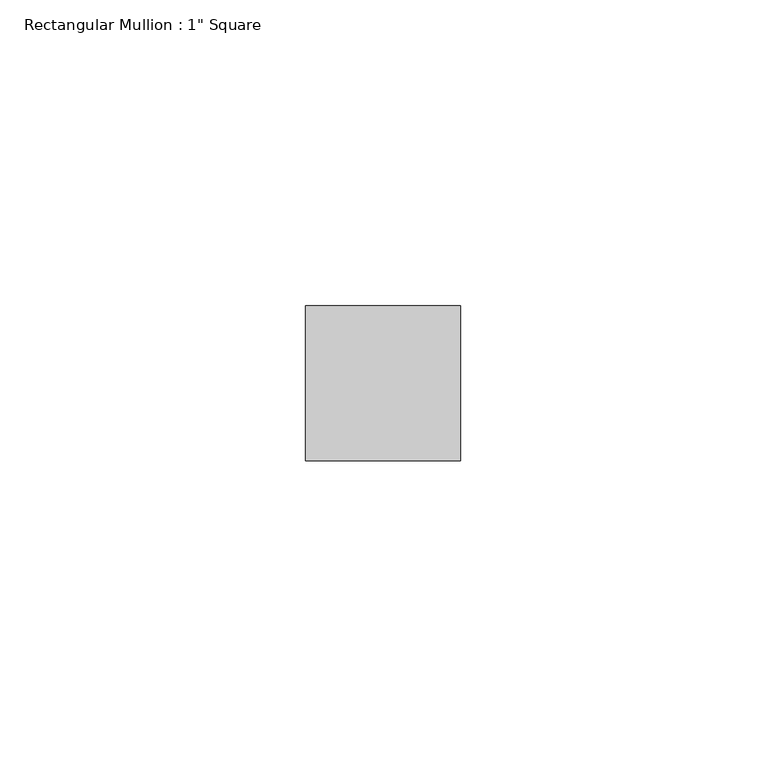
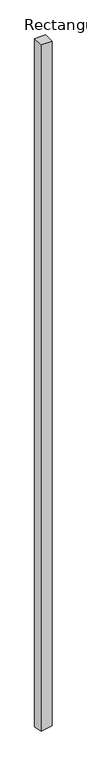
"""IFC4 building model written with IfcOpenShell, lengths in millimetres: member geometry."""

from ifc_helpers import new_model, si_unit, origin, place, context, project, spatial, faceted_brep, source, transform, mapped, element, save


def member_cce7d90b(model_context):
    return source(origin(), model_context, "Body", "Brep", [
        faceted_brep([(12.7, 12.7, 0.0), (-12.7, 12.7, 0.0), (-12.7, -12.7, 0.0), (12.7, -12.7, 0.0), (12.7, 12.7, -1677.3606024), (-12.7, 12.7, -1681.2521363), (-12.7, -12.7, -1676.4765158), (12.7, -12.7, -1672.5849818)], [[[0, 1, 2, 3]], [[1, 0, 4, 5]], [[2, 1, 5, 6]], [[3, 2, 6, 7]], [[0, 3, 7, 4]], [[4, 7, 6, 5]]]),
    ])


if __name__ == "__main__":
    model = new_model("IFC4")
    model_context = context("Model", 3, world=origin())
    ifc_project = project(units=[si_unit("LENGTHUNIT", "METRE", prefix="MILLI")], contexts=[model_context])
    site = spatial("IfcSite", under=ifc_project)
    building = spatial("IfcBuilding", under=site)
    placement = place(None, origin())
    member_shape = member_cce7d90b(model_context)
    element("IfcMember", 1, ObjectType="Rectangular Mullion : 1\" Square", at=placement, inside=building, context=model_context, shape_type="MappedRepresentation", body=[
        mapped(member_shape, transform((0.0, 0.0, 0.0), x_axis=(1.0, 0.0, 0.0), y_axis=(0.0, 1.0, 0.0), z_axis=(0.0, 0.0, 1.0))),
    ])
    save(model, "model.ifc")
